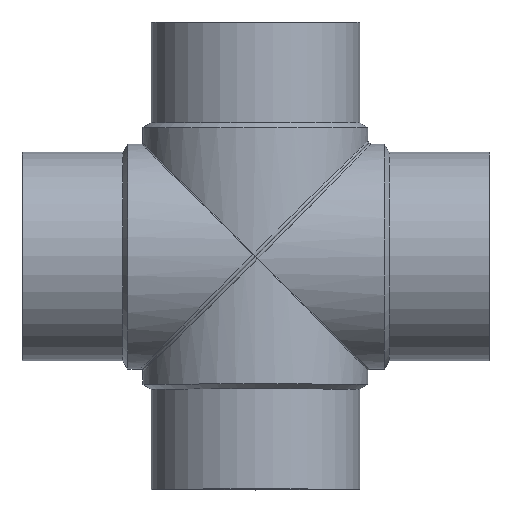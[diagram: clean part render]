
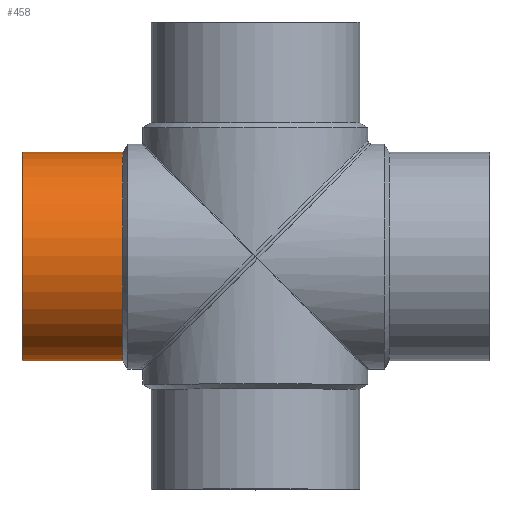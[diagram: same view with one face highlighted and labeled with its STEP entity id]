
A CAD part, top view. The second image highlights one B-rep face of the part: STEP entity #458.
In plain terms, the highlighted cylindrical face has radius 157.5 mm (diameter 315 mm), a full revolution.
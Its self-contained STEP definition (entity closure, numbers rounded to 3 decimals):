
#46=CIRCLE('',#520,157.5);
#47=CIRCLE('',#522,157.5);
#70=CYLINDRICAL_SURFACE('',#521,157.5);
#121=ORIENTED_EDGE('',*,*,#231,.T.);
#122=ORIENTED_EDGE('',*,*,#230,.T.);
#230=EDGE_CURVE('',#286,#286,#46,.T.);
#231=EDGE_CURVE('',#287,#287,#47,.T.);
#286=VERTEX_POINT('',#1032);
#287=VERTEX_POINT('',#1035);
#337=EDGE_LOOP('',(#121));
#338=EDGE_LOOP('',(#122));
#397=FACE_BOUND('',#337,.T.);
#398=FACE_BOUND('',#338,.T.);
#458=ADVANCED_FACE('',(#397,#398),#70,.T.);
#520=AXIS2_PLACEMENT_3D('',#1031,#588,#589);
#521=AXIS2_PLACEMENT_3D('',#1033,#590,#591);
#522=AXIS2_PLACEMENT_3D('',#1034,#592,#593);
#588=DIRECTION('',(-1.,0.,0.));
#589=DIRECTION('',(0.,0.,1.));
#590=DIRECTION('',(-1.,0.,0.));
#591=DIRECTION('',(0.,0.,1.));
#592=DIRECTION('',(1.,0.,0.));
#593=DIRECTION('',(0.,0.,-1.));
#1031=CARTESIAN_POINT('',(-200.,0.,0.));
#1032=CARTESIAN_POINT('',(-200.,0.,157.5));
#1033=CARTESIAN_POINT('',(-60.,0.,0.));
#1034=CARTESIAN_POINT('',(-351.,0.,0.));
#1035=CARTESIAN_POINT('',(-351.,0.,-157.5));
